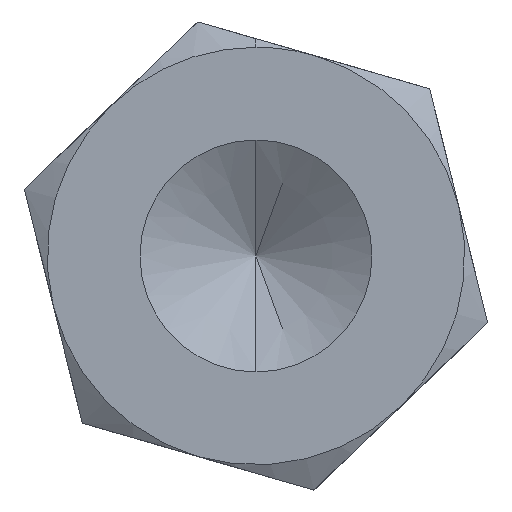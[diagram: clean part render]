
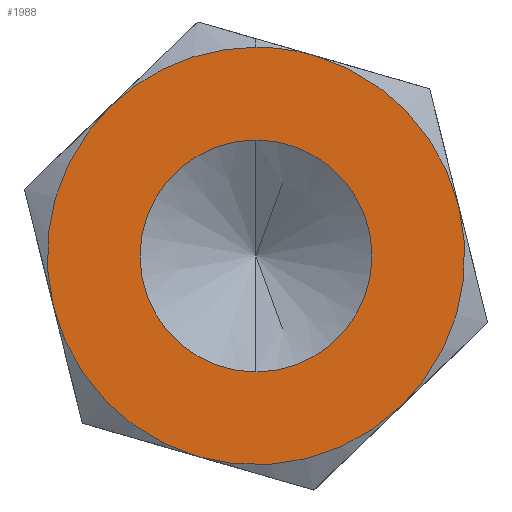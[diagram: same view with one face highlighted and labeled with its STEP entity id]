
A CAD part, left-side view. The second image highlights one B-rep face of the part: STEP entity #1988.
In plain terms, the highlighted planar face has unit normal (-1, 0, 0).
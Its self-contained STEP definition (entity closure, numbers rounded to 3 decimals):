
#25 = AXIS2_PLACEMENT_3D ( 'NONE', #573, #1211, #2926 ) ;
#65 = DIRECTION ( 'NONE',  ( 0., 0., 1. ) ) ;
#88 = AXIS2_PLACEMENT_3D ( 'NONE', #2373, #1983, #1008 ) ;
#120 = AXIS2_PLACEMENT_3D ( 'NONE', #4020, #997, #65 ) ;
#133 = DIRECTION ( 'NONE',  ( 0., 0., 1. ) ) ;
#166 = ORIENTED_EDGE ( 'NONE', *, *, #3196, .T. ) ;
#229 = AXIS2_PLACEMENT_3D ( 'NONE', #1897, #602, #3281 ) ;
#291 = EDGE_CURVE ( 'NONE', #3096, #568, #1440, .T. ) ;
#338 = DIRECTION ( 'NONE',  ( 0., 0., 1. ) ) ;
#360 = VERTEX_POINT ( 'NONE', #920 ) ;
#403 = DIRECTION ( 'NONE',  ( -1., 0., 0. ) ) ;
#445 = AXIS2_PLACEMENT_3D ( 'NONE', #2037, #403, #1043 ) ;
#497 = ORIENTED_EDGE ( 'NONE', *, *, #2707, .F. ) ;
#509 = ORIENTED_EDGE ( 'NONE', *, *, #3987, .T. ) ;
#568 = VERTEX_POINT ( 'NONE', #721 ) ;
#573 = CARTESIAN_POINT ( 'NONE',  ( -203.15, 0., 0. ) ) ;
#602 = DIRECTION ( 'NONE',  ( -1., 0., 0. ) ) ;
#637 = DIRECTION ( 'NONE',  ( 0., 0., 1. ) ) ;
#639 = EDGE_CURVE ( 'NONE', #3258, #3096, #2482, .T. ) ;
#721 = CARTESIAN_POINT ( 'NONE',  ( -203.15, 0., 2.25 ) ) ;
#764 = CIRCLE ( 'NONE', #88, 2.25 ) ;
#844 = VERTEX_POINT ( 'NONE', #2035 ) ;
#866 = ORIENTED_EDGE ( 'NONE', *, *, #291, .T. ) ;
#873 = CARTESIAN_POINT ( 'NONE',  ( -203.15, 0., 0. ) ) ;
#920 = CARTESIAN_POINT ( 'NONE',  ( -203.15, 0., 1.25 ) ) ;
#941 = DIRECTION ( 'NONE',  ( -1., 0., 0. ) ) ;
#997 = DIRECTION ( 'NONE',  ( -1., 0., 0. ) ) ;
#1008 = DIRECTION ( 'NONE',  ( 0., 0., 1. ) ) ;
#1043 = DIRECTION ( 'NONE',  ( 0., 0., 1. ) ) ;
#1156 = VERTEX_POINT ( 'NONE', #3553 ) ;
#1211 = DIRECTION ( 'NONE',  ( -1., 0., 0. ) ) ;
#1231 = CIRCLE ( 'NONE', #1562, 1.25 ) ;
#1255 = CIRCLE ( 'NONE', #25, 2.25 ) ;
#1331 = AXIS2_PLACEMENT_3D ( 'NONE', #2262, #1958, #637 ) ;
#1368 = EDGE_CURVE ( 'NONE', #2673, #1156, #3890, .T. ) ;
#1390 = EDGE_CURVE ( 'NONE', #360, #844, #1231, .T. ) ;
#1410 = AXIS2_PLACEMENT_3D ( 'NONE', #3068, #2094, #3065 ) ;
#1440 = CIRCLE ( 'NONE', #229, 2.25 ) ;
#1562 = AXIS2_PLACEMENT_3D ( 'NONE', #2288, #941, #338 ) ;
#1577 = CARTESIAN_POINT ( 'NONE',  ( -203.15, 0.623, -2.162 ) ) ;
#1662 = EDGE_CURVE ( 'NONE', #568, #1777, #2370, .T. ) ;
#1723 = CARTESIAN_POINT ( 'NONE',  ( -203.15, 1.561, 1.621 ) ) ;
#1777 = VERTEX_POINT ( 'NONE', #1723 ) ;
#1892 = CARTESIAN_POINT ( 'NONE',  ( -203.15, -0.623, 2.162 ) ) ;
#1897 = CARTESIAN_POINT ( 'NONE',  ( -203.15, 0., 0. ) ) ;
#1930 = DIRECTION ( 'NONE',  ( 0., 0., 1. ) ) ;
#1958 = DIRECTION ( 'NONE',  ( -1., 0., 0. ) ) ;
#1983 = DIRECTION ( 'NONE',  ( -1., 0., 0. ) ) ;
#1988 = ADVANCED_FACE ( 'NONE', ( #2624, #3362 ), #2520, .T. ) ;
#2035 = CARTESIAN_POINT ( 'NONE',  ( -203.15, 0., -1.25 ) ) ;
#2037 = CARTESIAN_POINT ( 'NONE',  ( -203.15, 0., 0. ) ) ;
#2040 = DIRECTION ( 'NONE',  ( -1., 0., 0. ) ) ;
#2093 = VERTEX_POINT ( 'NONE', #2753 ) ;
#2094 = DIRECTION ( 'NONE',  ( -1., 0., 0. ) ) ;
#2262 = CARTESIAN_POINT ( 'NONE',  ( -203.15, 0., 0. ) ) ;
#2288 = CARTESIAN_POINT ( 'NONE',  ( -203.15, 0., 0. ) ) ;
#2370 = CIRCLE ( 'NONE', #120, 2.25 ) ;
#2373 = CARTESIAN_POINT ( 'NONE',  ( -203.15, 0., 0. ) ) ;
#2482 = CIRCLE ( 'NONE', #445, 2.25 ) ;
#2513 = ORIENTED_EDGE ( 'NONE', *, *, #639, .T. ) ;
#2520 = PLANE ( 'NONE',  #2730 ) ;
#2622 = EDGE_LOOP ( 'NONE', ( #866, #2780, #3107, #166, #2939, #509, #2513 ) ) ;
#2624 = FACE_BOUND ( 'NONE', #3255, .T. ) ;
#2673 = VERTEX_POINT ( 'NONE', #1577 ) ;
#2707 = EDGE_CURVE ( 'NONE', #844, #360, #3751, .T. ) ;
#2730 = AXIS2_PLACEMENT_3D ( 'NONE', #873, #3270, #1930 ) ;
#2753 = CARTESIAN_POINT ( 'NONE',  ( -203.15, 2.184, -0.541 ) ) ;
#2780 = ORIENTED_EDGE ( 'NONE', *, *, #1662, .T. ) ;
#2817 = AXIS2_PLACEMENT_3D ( 'NONE', #4085, #2040, #133 ) ;
#2926 = DIRECTION ( 'NONE',  ( 0., 0., 1. ) ) ;
#2939 = ORIENTED_EDGE ( 'NONE', *, *, #1368, .T. ) ;
#3065 = DIRECTION ( 'NONE',  ( 0., 0., 1. ) ) ;
#3068 = CARTESIAN_POINT ( 'NONE',  ( -203.15, 0., 0. ) ) ;
#3096 = VERTEX_POINT ( 'NONE', #1892 ) ;
#3103 = ORIENTED_EDGE ( 'NONE', *, *, #1390, .F. ) ;
#3107 = ORIENTED_EDGE ( 'NONE', *, *, #4265, .T. ) ;
#3196 = EDGE_CURVE ( 'NONE', #2093, #2673, #1255, .T. ) ;
#3255 = EDGE_LOOP ( 'NONE', ( #3103, #497 ) ) ;
#3258 = VERTEX_POINT ( 'NONE', #3320 ) ;
#3270 = DIRECTION ( 'NONE',  ( -1., 0., 0. ) ) ;
#3281 = DIRECTION ( 'NONE',  ( 0., 0., 1. ) ) ;
#3320 = CARTESIAN_POINT ( 'NONE',  ( -203.15, -2.184, 0.541 ) ) ;
#3362 = FACE_OUTER_BOUND ( 'NONE', #2622, .T. ) ;
#3553 = CARTESIAN_POINT ( 'NONE',  ( -203.15, -1.561, -1.621 ) ) ;
#3751 = CIRCLE ( 'NONE', #1410, 1.25 ) ;
#3890 = CIRCLE ( 'NONE', #1331, 2.25 ) ;
#3987 = EDGE_CURVE ( 'NONE', #1156, #3258, #4150, .T. ) ;
#4020 = CARTESIAN_POINT ( 'NONE',  ( -203.15, 0., 0. ) ) ;
#4085 = CARTESIAN_POINT ( 'NONE',  ( -203.15, 0., 0. ) ) ;
#4150 = CIRCLE ( 'NONE', #2817, 2.25 ) ;
#4265 = EDGE_CURVE ( 'NONE', #1777, #2093, #764, .T. ) ;
